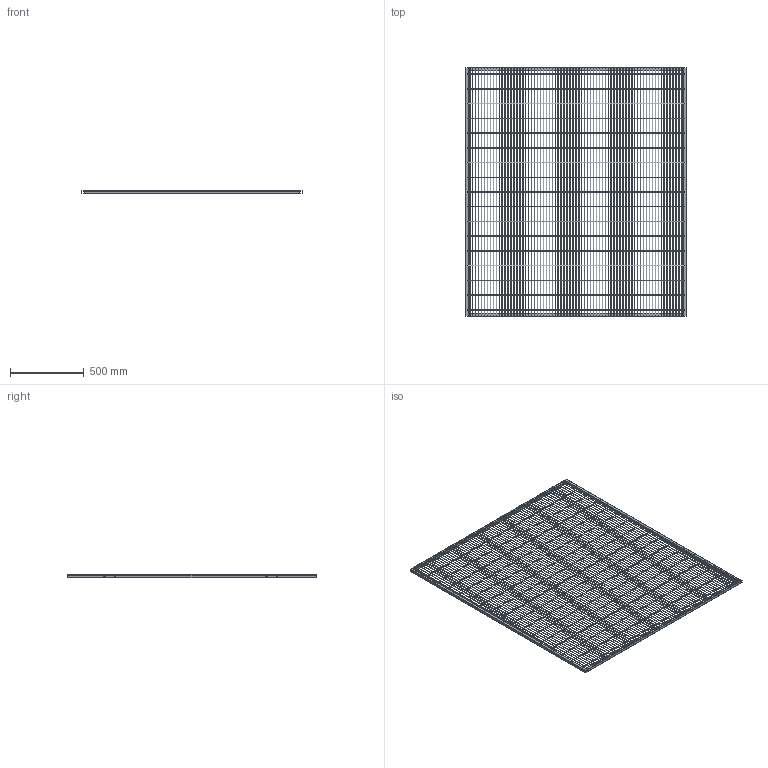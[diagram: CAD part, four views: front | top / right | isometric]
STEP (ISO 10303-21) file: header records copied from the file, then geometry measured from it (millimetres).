
FILE_DESCRIPTION (( 'STEP AP203' ), '1' );
FILE_NAME ('Framed Panel 1500 x 1688.STEP', '2023-09-21T16:28:25', ( '' ), ( '' ), 'SwSTEP 2.0', 'SolidWorks 2023', '' );
FILE_SCHEMA (( 'CONFIG_CONTROL_DESIGN' ));
Length unit declared in the file: millimetre
Products named in the file (1): Framed Panel 1500 x 1688
Bounding box: 1500 x 1688 x 26 mm (x, y, z)
Volume: 1721087.3 mm3; surface area: 2297520.8 mm2
Topology: 94 solids, 94 shells, 464 faces, 828 edges, 552 vertices
Faces by surface type: cylinder 244, plane 220
Entity records: 11451 total; most frequent: DIRECTION 2246, CARTESIAN_POINT 1845, ORIENTED_EDGE 1656, AXIS2_PLACEMENT_3D 953, EDGE_CURVE 828, VERTEX_POINT 552, EDGE_LOOP 504, CIRCLE 488
